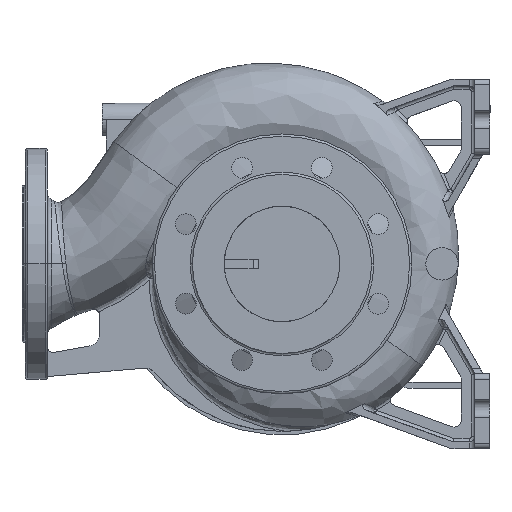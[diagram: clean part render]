
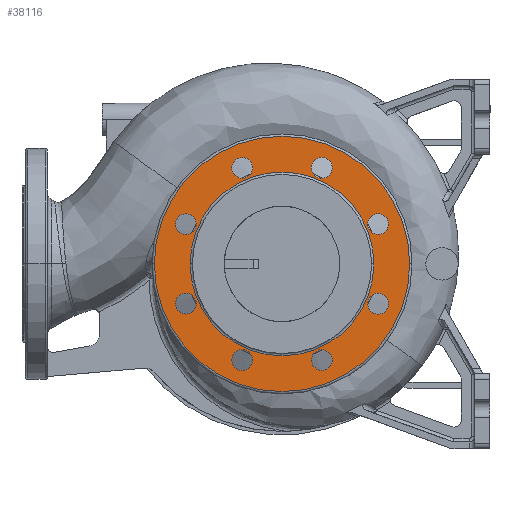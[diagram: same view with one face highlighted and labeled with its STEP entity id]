
A CAD part, front view. The second image highlights one B-rep face of the part: STEP entity #38116.
In plain terms, the highlighted planar face has unit normal (0, -1, 0) as drawn and (0, 0, 1) by its records, which use the part's own axes.
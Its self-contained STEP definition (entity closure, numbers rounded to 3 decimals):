
#27889=CARTESIAN_POINT('',(0.,0.,122.));
#27890=DIRECTION('',(0.,0.,-1.));
#27891=DIRECTION('',(0.,-1.,0.));
#27892=AXIS2_PLACEMENT_3D('',#27889,#27890,#27891);
#27897=CARTESIAN_POINT('',(0.,0.,122.));
#27898=DIRECTION('',(0.,0.,-1.));
#27899=DIRECTION('',(0.,1.,0.));
#27900=AXIS2_PLACEMENT_3D('',#27897,#27898,#27899);
#27905=CARTESIAN_POINT('',(0.,0.,122.));
#27906=DIRECTION('',(0.,0.,1.));
#27907=DIRECTION('',(0.,1.,0.));
#27908=AXIS2_PLACEMENT_3D('',#27905,#27906,#27907);
#27913=CARTESIAN_POINT('',(0.,0.,122.));
#27914=DIRECTION('',(0.,0.,1.));
#27915=DIRECTION('',(0.,-1.,0.));
#27916=AXIS2_PLACEMENT_3D('',#27913,#27914,#27915);
#27921=CARTESIAN_POINT('',(-34.442,83.149,122.));
#27922=DIRECTION('',(0.,0.,1.));
#27923=DIRECTION('',(1.,0.,0.));
#27924=AXIS2_PLACEMENT_3D('',#27921,#27922,#27923);
#27929=CARTESIAN_POINT('',(-34.442,83.149,122.));
#27930=DIRECTION('',(0.,0.,1.));
#27931=DIRECTION('',(-1.,0.,0.));
#27932=AXIS2_PLACEMENT_3D('',#27929,#27930,#27931);
#27937=CARTESIAN_POINT('',(-83.149,34.442,122.));
#27938=DIRECTION('',(0.,0.,1.));
#27939=DIRECTION('',(0.707,0.707,0.));
#27940=AXIS2_PLACEMENT_3D('',#27937,#27938,#27939);
#27945=CARTESIAN_POINT('',(-83.149,34.442,122.));
#27946=DIRECTION('',(0.,0.,1.));
#27947=DIRECTION('',(-0.707,-0.707,0.));
#27948=AXIS2_PLACEMENT_3D('',#27945,#27946,#27947);
#27953=CARTESIAN_POINT('',(-83.149,-34.442,122.));
#27954=DIRECTION('',(0.,0.,1.));
#27955=DIRECTION('',(0.,1.,0.));
#27956=AXIS2_PLACEMENT_3D('',#27953,#27954,#27955);
#27961=CARTESIAN_POINT('',(-83.149,-34.442,122.));
#27962=DIRECTION('',(0.,0.,1.));
#27963=DIRECTION('',(0.,-1.,0.));
#27964=AXIS2_PLACEMENT_3D('',#27961,#27962,#27963);
#27969=CARTESIAN_POINT('',(-34.442,-83.149,122.));
#27970=DIRECTION('',(0.,0.,1.));
#27971=DIRECTION('',(-0.707,0.707,0.));
#27972=AXIS2_PLACEMENT_3D('',#27969,#27970,#27971);
#27977=CARTESIAN_POINT('',(-34.442,-83.149,122.));
#27978=DIRECTION('',(0.,0.,1.));
#27979=DIRECTION('',(0.707,-0.707,0.));
#27980=AXIS2_PLACEMENT_3D('',#27977,#27978,#27979);
#27985=CARTESIAN_POINT('',(34.442,-83.149,122.));
#27986=DIRECTION('',(0.,0.,1.));
#27987=DIRECTION('',(-1.,0.,0.));
#27988=AXIS2_PLACEMENT_3D('',#27985,#27986,#27987);
#27993=CARTESIAN_POINT('',(34.442,-83.149,122.));
#27994=DIRECTION('',(0.,0.,1.));
#27995=DIRECTION('',(1.,0.,0.));
#27996=AXIS2_PLACEMENT_3D('',#27993,#27994,#27995);
#28001=CARTESIAN_POINT('',(83.149,-34.442,122.));
#28002=DIRECTION('',(0.,0.,1.));
#28003=DIRECTION('',(-0.707,-0.707,0.));
#28004=AXIS2_PLACEMENT_3D('',#28001,#28002,#28003);
#28009=CARTESIAN_POINT('',(83.149,-34.442,122.));
#28010=DIRECTION('',(0.,0.,1.));
#28011=DIRECTION('',(0.707,0.707,0.));
#28012=AXIS2_PLACEMENT_3D('',#28009,#28010,#28011);
#28017=CARTESIAN_POINT('',(83.149,34.442,122.));
#28018=DIRECTION('',(0.,0.,1.));
#28019=DIRECTION('',(0.,-1.,0.));
#28020=AXIS2_PLACEMENT_3D('',#28017,#28018,#28019);
#28025=CARTESIAN_POINT('',(83.149,34.442,122.));
#28026=DIRECTION('',(0.,0.,1.));
#28027=DIRECTION('',(0.,1.,0.));
#28028=AXIS2_PLACEMENT_3D('',#28025,#28026,#28027);
#28033=CARTESIAN_POINT('',(34.442,83.149,122.));
#28034=DIRECTION('',(0.,0.,1.));
#28035=DIRECTION('',(0.707,-0.707,0.));
#28036=AXIS2_PLACEMENT_3D('',#28033,#28034,#28035);
#28041=CARTESIAN_POINT('',(34.442,83.149,122.));
#28042=DIRECTION('',(0.,0.,1.));
#28043=DIRECTION('',(-0.707,0.707,0.));
#28044=AXIS2_PLACEMENT_3D('',#28041,#28042,#28043);
#30344=CARTESIAN_POINT('',(0.,-79.5,122.));
#30345=CARTESIAN_POINT('',(0.,79.5,122.));
#30346=VERTEX_POINT('',#30344);
#30347=VERTEX_POINT('',#30345);
#30348=CARTESIAN_POINT('',(0.,110.5,122.));
#30349=CARTESIAN_POINT('',(0.,-110.5,122.));
#30350=VERTEX_POINT('',#30348);
#30351=VERTEX_POINT('',#30349);
#31001=CARTESIAN_POINT('',(-25.442,83.149,122.));
#31002=CARTESIAN_POINT('',(-43.442,83.149,122.));
#31003=VERTEX_POINT('',#31001);
#31004=VERTEX_POINT('',#31002);
#31009=CARTESIAN_POINT('',(-76.785,40.805,122.));
#31010=CARTESIAN_POINT('',(-89.513,28.078,122.));
#31011=VERTEX_POINT('',#31009);
#31012=VERTEX_POINT('',#31010);
#31017=CARTESIAN_POINT('',(-83.149,-25.442,122.));
#31018=CARTESIAN_POINT('',(-83.149,-43.442,122.));
#31019=VERTEX_POINT('',#31017);
#31020=VERTEX_POINT('',#31018);
#31025=CARTESIAN_POINT('',(-40.805,-76.785,122.));
#31026=CARTESIAN_POINT('',(-28.078,-89.513,122.));
#31027=VERTEX_POINT('',#31025);
#31028=VERTEX_POINT('',#31026);
#31033=CARTESIAN_POINT('',(25.442,-83.149,122.));
#31034=CARTESIAN_POINT('',(43.442,-83.149,122.));
#31035=VERTEX_POINT('',#31033);
#31036=VERTEX_POINT('',#31034);
#31041=CARTESIAN_POINT('',(76.785,-40.805,122.));
#31042=CARTESIAN_POINT('',(89.513,-28.078,122.));
#31043=VERTEX_POINT('',#31041);
#31044=VERTEX_POINT('',#31042);
#31049=CARTESIAN_POINT('',(83.149,25.442,122.));
#31050=CARTESIAN_POINT('',(83.149,43.442,122.));
#31051=VERTEX_POINT('',#31049);
#31052=VERTEX_POINT('',#31050);
#31057=CARTESIAN_POINT('',(40.805,76.785,122.));
#31058=CARTESIAN_POINT('',(28.078,89.513,122.));
#31059=VERTEX_POINT('',#31057);
#31060=VERTEX_POINT('',#31058);
#38052=CARTESIAN_POINT('',(0.,0.,122.));
#38053=DIRECTION('',(0.,0.,-1.));
#38054=DIRECTION('',(0.,-1.,0.));
#38055=AXIS2_PLACEMENT_3D('',#38052,#38053,#38054);
#38056=PLANE('',#38055);
#38057=ORIENTED_EDGE('',*,*,#38042,.F.);
#38059=ORIENTED_EDGE('',*,*,#38058,.F.);
#38060=EDGE_LOOP('',(#38057,#38059));
#38061=FACE_OUTER_BOUND('',#38060,.F.);
#38063=ORIENTED_EDGE('',*,*,#38062,.F.);
#38065=ORIENTED_EDGE('',*,*,#38064,.F.);
#38066=EDGE_LOOP('',(#38063,#38065));
#38067=FACE_BOUND('',#38066,.F.);
#38069=ORIENTED_EDGE('',*,*,#38068,.T.);
#38071=ORIENTED_EDGE('',*,*,#38070,.T.);
#38072=EDGE_LOOP('',(#38069,#38071));
#38073=FACE_BOUND('',#38072,.F.);
#38075=ORIENTED_EDGE('',*,*,#38074,.T.);
#38077=ORIENTED_EDGE('',*,*,#38076,.T.);
#38078=EDGE_LOOP('',(#38075,#38077));
#38079=FACE_BOUND('',#38078,.F.);
#38081=ORIENTED_EDGE('',*,*,#38080,.T.);
#38083=ORIENTED_EDGE('',*,*,#38082,.T.);
#38084=EDGE_LOOP('',(#38081,#38083));
#38085=FACE_BOUND('',#38084,.F.);
#38087=ORIENTED_EDGE('',*,*,#38086,.T.);
#38089=ORIENTED_EDGE('',*,*,#38088,.T.);
#38090=EDGE_LOOP('',(#38087,#38089));
#38091=FACE_BOUND('',#38090,.F.);
#38093=ORIENTED_EDGE('',*,*,#38092,.T.);
#38095=ORIENTED_EDGE('',*,*,#38094,.T.);
#38096=EDGE_LOOP('',(#38093,#38095));
#38097=FACE_BOUND('',#38096,.F.);
#38099=ORIENTED_EDGE('',*,*,#38098,.T.);
#38101=ORIENTED_EDGE('',*,*,#38100,.T.);
#38102=EDGE_LOOP('',(#38099,#38101));
#38103=FACE_BOUND('',#38102,.F.);
#38105=ORIENTED_EDGE('',*,*,#38104,.T.);
#38107=ORIENTED_EDGE('',*,*,#38106,.T.);
#38108=EDGE_LOOP('',(#38105,#38107));
#38109=FACE_BOUND('',#38108,.F.);
#38111=ORIENTED_EDGE('',*,*,#38110,.T.);
#38113=ORIENTED_EDGE('',*,*,#38112,.T.);
#38114=EDGE_LOOP('',(#38111,#38113));
#38115=FACE_BOUND('',#38114,.F.);
#27893=CIRCLE('',#27892,79.5);
#27901=CIRCLE('',#27900,79.5);
#27909=CIRCLE('',#27908,110.5);
#27917=CIRCLE('',#27916,110.5);
#27925=CIRCLE('',#27924,9.);
#27933=CIRCLE('',#27932,9.);
#27941=CIRCLE('',#27940,9.);
#27949=CIRCLE('',#27948,9.);
#27957=CIRCLE('',#27956,9.);
#27965=CIRCLE('',#27964,9.);
#27973=CIRCLE('',#27972,9.);
#27981=CIRCLE('',#27980,9.);
#27989=CIRCLE('',#27988,9.);
#27997=CIRCLE('',#27996,9.);
#28005=CIRCLE('',#28004,9.);
#28013=CIRCLE('',#28012,9.);
#28021=CIRCLE('',#28020,9.);
#28029=CIRCLE('',#28028,9.);
#28037=CIRCLE('',#28036,9.);
#28045=CIRCLE('',#28044,9.);
#38042=EDGE_CURVE('',#30350,#30351,#27909,.T.);
#38058=EDGE_CURVE('',#30351,#30350,#27917,.T.);
#38062=EDGE_CURVE('',#30346,#30347,#27893,.T.);
#38064=EDGE_CURVE('',#30347,#30346,#27901,.T.);
#38068=EDGE_CURVE('',#31003,#31004,#27925,.T.);
#38070=EDGE_CURVE('',#31004,#31003,#27933,.T.);
#38074=EDGE_CURVE('',#31011,#31012,#27941,.T.);
#38076=EDGE_CURVE('',#31012,#31011,#27949,.T.);
#38080=EDGE_CURVE('',#31019,#31020,#27957,.T.);
#38082=EDGE_CURVE('',#31020,#31019,#27965,.T.);
#38086=EDGE_CURVE('',#31027,#31028,#27973,.T.);
#38088=EDGE_CURVE('',#31028,#31027,#27981,.T.);
#38092=EDGE_CURVE('',#31035,#31036,#27989,.T.);
#38094=EDGE_CURVE('',#31036,#31035,#27997,.T.);
#38098=EDGE_CURVE('',#31043,#31044,#28005,.T.);
#38100=EDGE_CURVE('',#31044,#31043,#28013,.T.);
#38104=EDGE_CURVE('',#31051,#31052,#28021,.T.);
#38106=EDGE_CURVE('',#31052,#31051,#28029,.T.);
#38110=EDGE_CURVE('',#31059,#31060,#28037,.T.);
#38112=EDGE_CURVE('',#31060,#31059,#28045,.T.);
#38116=ADVANCED_FACE('',(#38061,#38067,#38073,#38079,#38085,#38091,#38097,
#38103,#38109,#38115),#38056,.F.);
